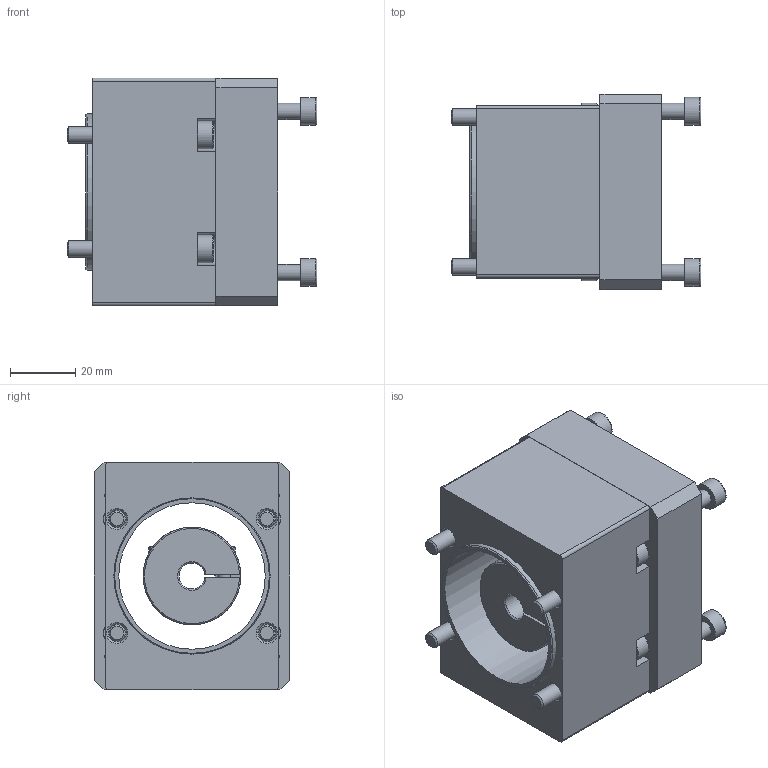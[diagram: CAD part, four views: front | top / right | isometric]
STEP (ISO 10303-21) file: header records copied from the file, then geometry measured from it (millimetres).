
FILE_DESCRIPTION(/* description */ ('EAMK-A O-Coupling housing'),/* implementation_level */ '2;1');
FILE_NAME(/* name */ 'C:\STORE\ホームページ用データ\\X2\30E230FC30BF53D64ED830AD30C330C8\X0\_2016_2016.10.06_\X2\30AB30BF30ED30B065398A025206\X0\\3D_STEP\J09806.stp',/* time_stamp */ '2016-10-19T14:24:35+09:00',/* author */ ('jp0tot'),/* organization */ ('FESTO'),/* preprocessor_version */ 'ST-DEVELOPER v15.6',/* originating_system */ 'Autodesk Inventor 2015',/* authorisation */ '');
FILE_SCHEMA (('AUTOMOTIVE_DESIGN { 1 0 10303 214 3 1 1 }'));
Length unit declared in the file: millimetre
Products named in the file (8): 3637941 EAMK-A-S48-48A_B-G2---(1O); DIN-912 - M5x40(F); 3637941 EAMK-A-S48-48A_B-G2; 562682_EAMC_30_32_8_14; J07543; コピー版 JIS B 1176 - M5 x 20; コピー版 JIS B 1176 - M5 x 15; J09806
Bounding box: 76.7 x 60 x 70 mm (x, y, z)
Volume: 142769.8 mm3; surface area: 54846.5 mm2
Topology: 15 solids, 15 shells, 465 faces, 1102 edges, 696 vertices
Faces by surface type: plane 243, cylinder 120, cone 84, torus 18
Full cylindrical faces by diameter (mm): 2 x12, 3.242 x2, 4 x2, 4.134 x8, 5 x12, 5.5 x8, 8.5 x12, 10 x4, 14.2 x1, 45 x1, 46.5 x1, 48 x2, 50 x1
Entity records: 8731 total; most frequent: CARTESIAN_POINT 1697, DIRECTION 1502, ORIENTED_EDGE 1272, EDGE_CURVE 636, AXIS2_PLACEMENT_3D 595, VERTEX_POINT 458, EDGE_LOOP 434, LINE 312
